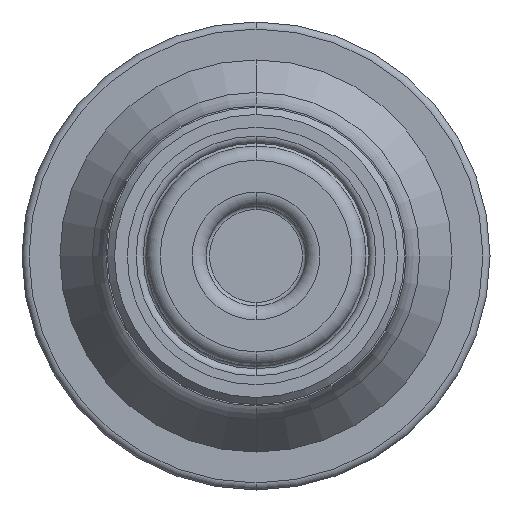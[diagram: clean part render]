
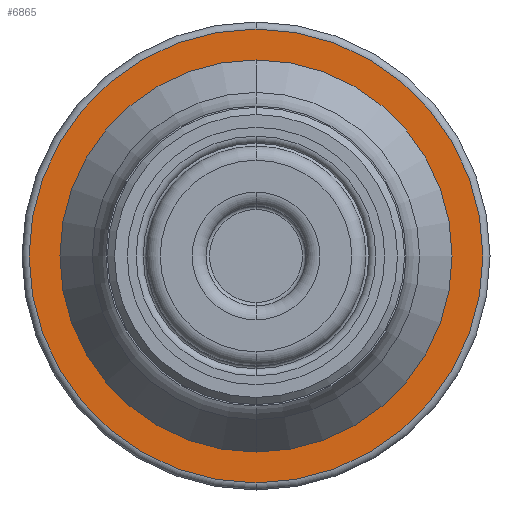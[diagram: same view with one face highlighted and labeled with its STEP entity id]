
A CAD part, front view. The second image highlights one B-rep face of the part: STEP entity #6865.
In plain terms, the highlighted planar face has unit normal (0, -1, 0).
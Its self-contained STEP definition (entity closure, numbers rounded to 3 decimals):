
#665 = DIRECTION ( 'NONE',  ( 0., -1., 0. ) ) ;
#814 = CIRCLE ( 'NONE', #4968, 32. ) ;
#900 = CARTESIAN_POINT ( 'NONE',  ( 0., 33.969, 0. ) ) ;
#924 = ORIENTED_EDGE ( 'NONE', *, *, #13035, .T. ) ;
#1394 = CIRCLE ( 'NONE', #10283, 24.05 ) ;
#1558 = CIRCLE ( 'NONE', #6600, 32. ) ;
#2003 = DIRECTION ( 'NONE',  ( 0., 0., -1. ) ) ;
#2028 = ORIENTED_EDGE ( 'NONE', *, *, #10782, .T. ) ;
#2062 = CARTESIAN_POINT ( 'NONE',  ( 0., 33.969, -32. ) ) ;
#2083 = DIRECTION ( 'NONE',  ( 0., 0., -1. ) ) ;
#2616 = CIRCLE ( 'NONE', #2685, 24.05 ) ;
#2685 = AXIS2_PLACEMENT_3D ( 'NONE', #3776, #11934, #4961 ) ;
#3682 = EDGE_LOOP ( 'NONE', ( #8814, #6969 ) ) ;
#3776 = CARTESIAN_POINT ( 'NONE',  ( 0., 33.969, 0. ) ) ;
#4344 = CARTESIAN_POINT ( 'NONE',  ( 0., 33.969, 0. ) ) ;
#4961 = DIRECTION ( 'NONE',  ( 0., 0., -1. ) ) ;
#4968 = AXIS2_PLACEMENT_3D ( 'NONE', #900, #9135, #2083 ) ;
#5539 = DIRECTION ( 'NONE',  ( 0., 0., -1. ) ) ;
#6600 = AXIS2_PLACEMENT_3D ( 'NONE', #7685, #665, #8890 ) ;
#6865 = ADVANCED_FACE ( 'NONE', ( #7277, #10379 ), #12408, .T. ) ;
#6969 = ORIENTED_EDGE ( 'NONE', *, *, #13911, .F. ) ;
#7162 = VERTEX_POINT ( 'NONE', #12878 ) ;
#7277 = FACE_OUTER_BOUND ( 'NONE', #14344, .T. ) ;
#7685 = CARTESIAN_POINT ( 'NONE',  ( 0., 33.969, 0. ) ) ;
#8333 = VERTEX_POINT ( 'NONE', #8758 ) ;
#8758 = CARTESIAN_POINT ( 'NONE',  ( 0., 33.969, 32. ) ) ;
#8814 = ORIENTED_EDGE ( 'NONE', *, *, #10157, .F. ) ;
#8890 = DIRECTION ( 'NONE',  ( 0., 0., -1. ) ) ;
#9054 = DIRECTION ( 'NONE',  ( 0., -1., 0. ) ) ;
#9135 = DIRECTION ( 'NONE',  ( 0., -1., 0. ) ) ;
#9331 = VERTEX_POINT ( 'NONE', #2062 ) ;
#9427 = CARTESIAN_POINT ( 'NONE',  ( 0., 33.969, -24.05 ) ) ;
#10135 = CARTESIAN_POINT ( 'NONE',  ( 24.05, 33.969, 0. ) ) ;
#10157 = EDGE_CURVE ( 'NONE', #12714, #7162, #1394, .T. ) ;
#10283 = AXIS2_PLACEMENT_3D ( 'NONE', #4344, #12498, #5539 ) ;
#10379 = FACE_BOUND ( 'NONE', #3682, .T. ) ;
#10782 = EDGE_CURVE ( 'NONE', #9331, #8333, #814, .T. ) ;
#11934 = DIRECTION ( 'NONE',  ( 0., -1., 0. ) ) ;
#12408 = PLANE ( 'NONE',  #14061 ) ;
#12498 = DIRECTION ( 'NONE',  ( 0., -1., 0. ) ) ;
#12714 = VERTEX_POINT ( 'NONE', #9427 ) ;
#12878 = CARTESIAN_POINT ( 'NONE',  ( 0., 33.969, 24.05 ) ) ;
#13035 = EDGE_CURVE ( 'NONE', #8333, #9331, #1558, .T. ) ;
#13911 = EDGE_CURVE ( 'NONE', #7162, #12714, #2616, .T. ) ;
#14061 = AXIS2_PLACEMENT_3D ( 'NONE', #10135, #9054, #2003 ) ;
#14344 = EDGE_LOOP ( 'NONE', ( #2028, #924 ) ) ;
